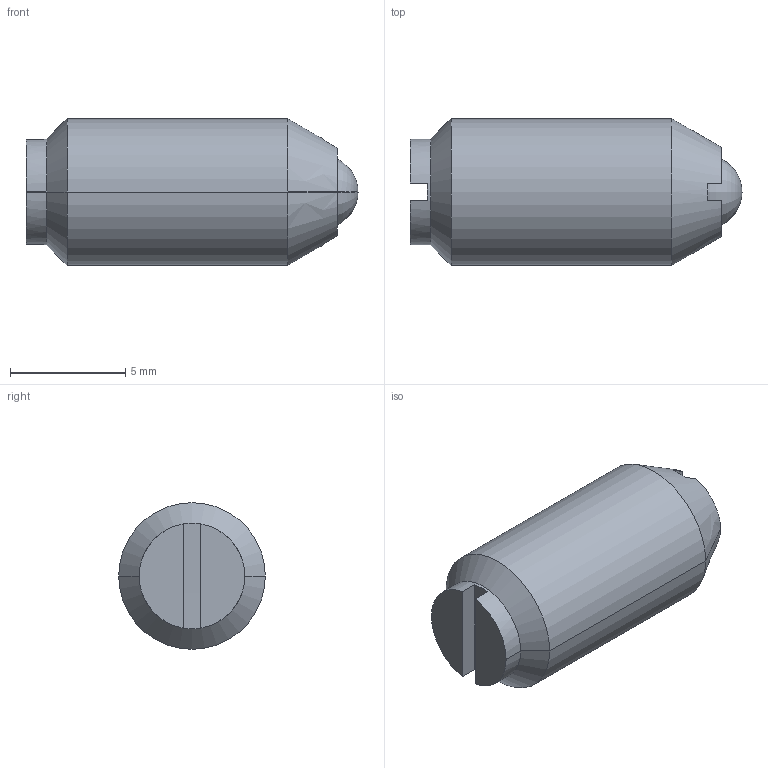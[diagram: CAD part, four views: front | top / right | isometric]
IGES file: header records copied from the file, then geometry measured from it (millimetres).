
Start section:  PTC IGES file: b54-3d.igs
Global section: file name: b54-3d.igs; native system: Pro/ENGINEER by Parametric Technology Corporation; preprocessor: 2002350; author: chant; organization: Unknown; date: 061026.161343; units: inch
Bounding box: 14.38 x 6.35 x 6.35 mm (x, y, z)
Surface area: 395.3 mm2 (no closed solid volume)
Topology: 0 solids, 0 shells, 27 faces, 193 edges, 241 vertices
Faces by surface type: revolution 17, bspline 10
